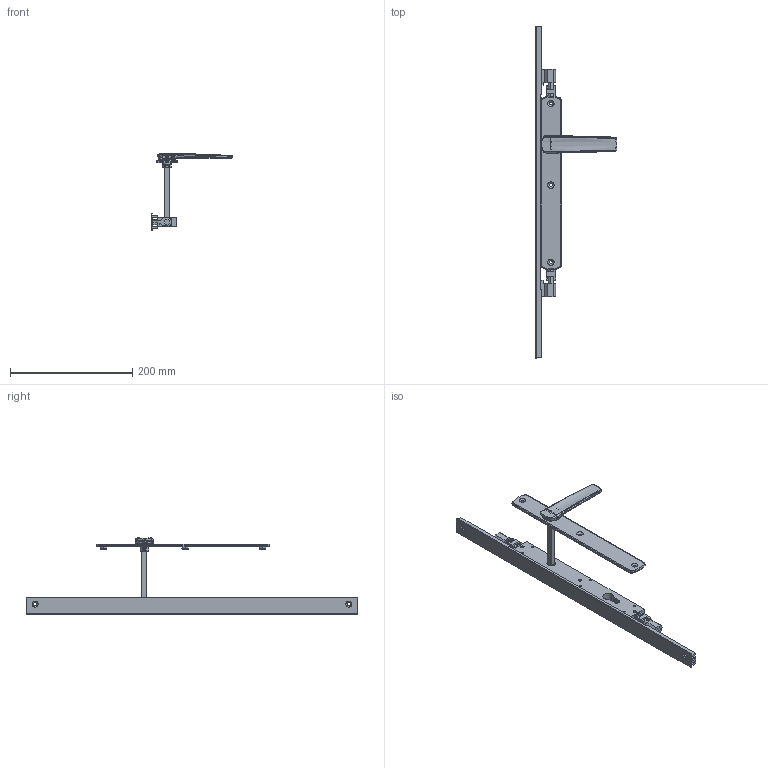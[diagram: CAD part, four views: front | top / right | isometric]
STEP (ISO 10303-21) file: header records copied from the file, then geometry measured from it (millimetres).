
FILE_DESCRIPTION (( 'STEP AP214' ), '1' );
FILE_NAME ('TPL-W-EU-613-U 06Nov2024.STEP', '2024-11-27T03:45:55', ( '' ), ( '' ), 'SwSTEP 2.0', 'SolidWorks 2023', '' );
FILE_SCHEMA (( 'AUTOMOTIVE_DESIGN' ));
Length unit declared in the file: millimetre
Products named in the file (18): Copy of LKC-505 Swing handle zinc - simplified^Copy of TPGen2 handle non-keyed long zinc - simplified_TPL-W-EU-113 04Nov2024; Copy of Copy of Copy of LKC-531 Lock twinpoint transmission rod wood system^TPL-W-EU-113 04Nov2024_Standard Range 2891.7mm; Copy of LKC-586 Spindle square 8mm with M4 hole^Copy of TPGen2 handle non-keyed long zinc - simplified_TPL-W-EU-113 04Nov2024_100mm; Copy of COV-112-C Cover C TPLGen2 Lock body^TPL-W-EU-113 04Nov2024; Copy of LKC-583 Escutcheon plate unkeyed 285mm long zinc - simplified^Copy of TPGen2 handle non-keyed long zinc - simplified_TPL-W-EU-113 04Nov2024; Copy of Copy of LKC-531 Lock twinpoint transmission rod wood system^TPL-W-EU-113 04Nov2024_Standard Range 2891.7mm; Copy of COV-112-A Cover A suit TPLGen2 standard range^TPL-W-EU-113 04Nov2024_2870mm; Copy (2) of COV-112-B Cover B suit TPLGen2 standard range^TPL-W-EU-113 04Nov2024_2870mm; Copy of Adapter DnF - simplfied^TPL-W-EU-113 04Nov2024_26mm backset; Copy of TPLGen2 lock body keyed assembly^TPL-W-EU-113 04Nov2024_Bolts retracted; TPL-W-EU-613-U 06Nov2024; Copy of LKC-584 Pivot body zinc - simplified^Copy of TPGen2 handle non-keyed long zinc - simplified_TPL-W-EU-113 04Nov2024; Copy of LKC-585 Rotator body zinc^Copy of TPGen2 handle non-keyed long zinc - simplified_TPL-W-EU-113 04Nov2024; Copy of TPLGen2 lock body keyed^Copy of TPLGen2 lock body keyed assembly_TPL-W-EU-113 04Nov2024; Bolt.step; TPLGen2 push rod - simplified^Copy of TPLGen2 lock body keyed assembly_TPL-W-EU-113 04Nov2024_Female thread M10; Copy of TPGen2 handle non-keyed long zinc - simplified^TPL-W-EU-113 04Nov2024_Right; Copy of Adapter CnE - simplfied^TPL-W-EU-113 04Nov2024_26mm backset
Assembly tree (15 placements, depth 3):
  Copy of COV-112-A Cover A suit TPLGen2 standard range^TPL-W-EU-113 04Nov2024_2870mm
  Copy (2) of COV-112-B Cover B suit TPLGen2 standard range^TPL-W-EU-113 04Nov2024_2870mm
  TPL-W-EU-613-U 06Nov2024
    Copy of TPLGen2 lock body keyed assembly^TPL-W-EU-113 04Nov2024_Bolts retracted
      Copy of TPLGen2 lock body keyed^Copy of TPLGen2 lock body keyed assembly_TPL-W-EU-113 04Nov2024
      TPLGen2 push rod - simplified^Copy of TPLGen2 lock body keyed assembly_TPL-W-EU-113 04Nov2024_Female thread M10  x2
    Copy of TPGen2 handle non-keyed long zinc - simplified^TPL-W-EU-113 04Nov2024_Right
      Copy of LKC-583 Escutcheon plate unkeyed 285mm long zinc - simplified^Copy of TPGen2 handle non-keyed long zinc - simplified_TPL-W-EU-113 04Nov2024
      Copy of LKC-505 Swing handle zinc - simplified^Copy of TPGen2 handle non-keyed long zinc - simplified_TPL-W-EU-113 04Nov2024
      Copy of LKC-585 Rotator body zinc^Copy of TPGen2 handle non-keyed long zinc - simplified_TPL-W-EU-113 04Nov2024
      Copy of LKC-586 Spindle square 8mm with M4 hole^Copy of TPGen2 handle non-keyed long zinc - simplified_TPL-W-EU-113 04Nov2024_100mm
      Copy of LKC-584 Pivot body zinc - simplified^Copy of TPGen2 handle non-keyed long zinc - simplified_TPL-W-EU-113 04Nov2024
    Copy of COV-112-C Cover C TPLGen2 Lock body^TPL-W-EU-113 04Nov2024
    Copy of Copy of LKC-531 Lock twinpoint transmission rod wood system^TPL-W-EU-113 04Nov2024_Standard Range 2891.7mm
    Copy of Copy of Copy of LKC-531 Lock twinpoint transmission rod wood system^TPL-W-EU-113 04Nov2024_Standard Range 2891.7mm
    Copy of Adapter DnF - simplfied^TPL-W-EU-113 04Nov2024_26mm backset
    Copy of Adapter CnE - simplfied^TPL-W-EU-113 04Nov2024_26mm backset
  Bolt.step
Bounding box: 134.12 x 544 x 125.06 mm (x, y, z)
Volume: 275918.9 mm3; surface area: 138516.5 mm2
Topology: 13 solids, 13 shells, 887 faces, 2187 edges, 1360 vertices
Faces by surface type: plane 310, bspline 241, cylinder 206, cone 70, torus 52, sphere 8
Entity records: 31804 total; most frequent: CARTESIAN_POINT 12765, ORIENTED_EDGE 4182, DIRECTION 3417, EDGE_CURVE 2091, VERTEX_POINT 1300, AXIS2_PLACEMENT_3D 1254, EDGE_LOOP 947, LINE 909
